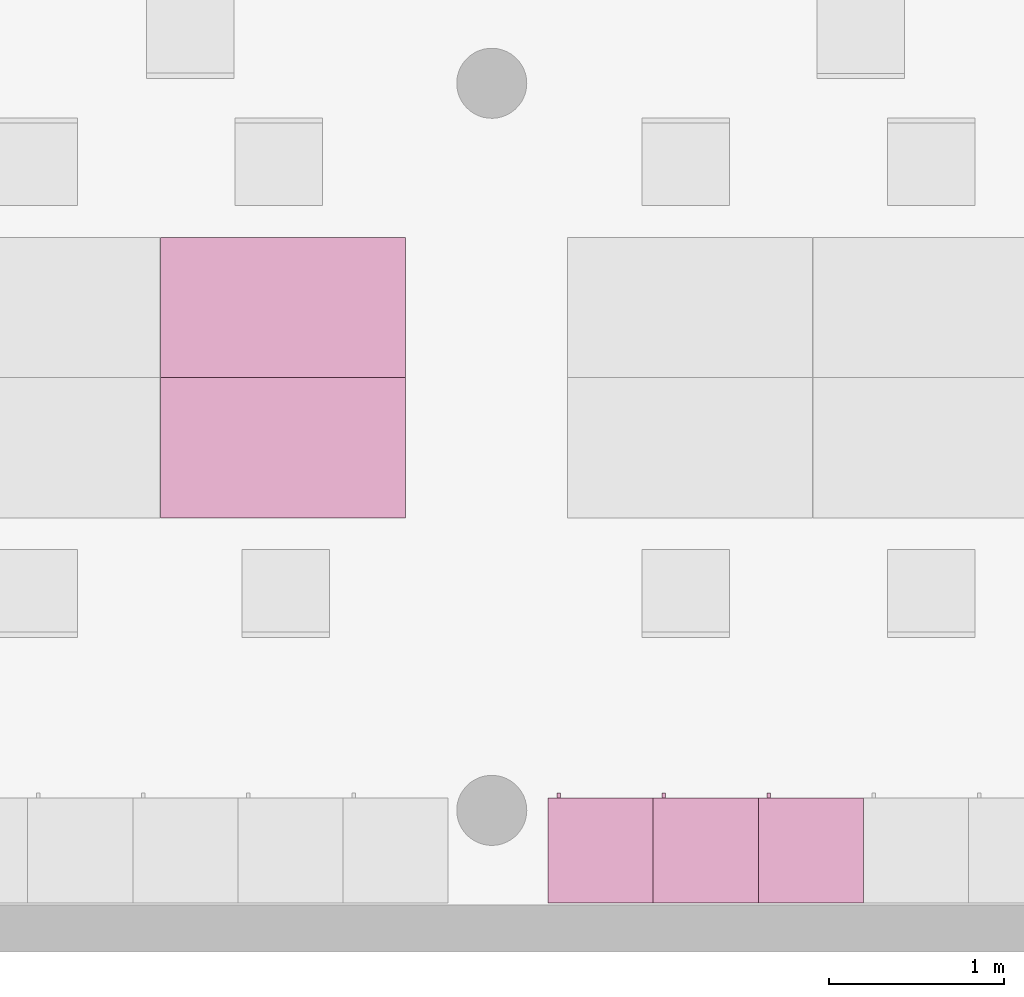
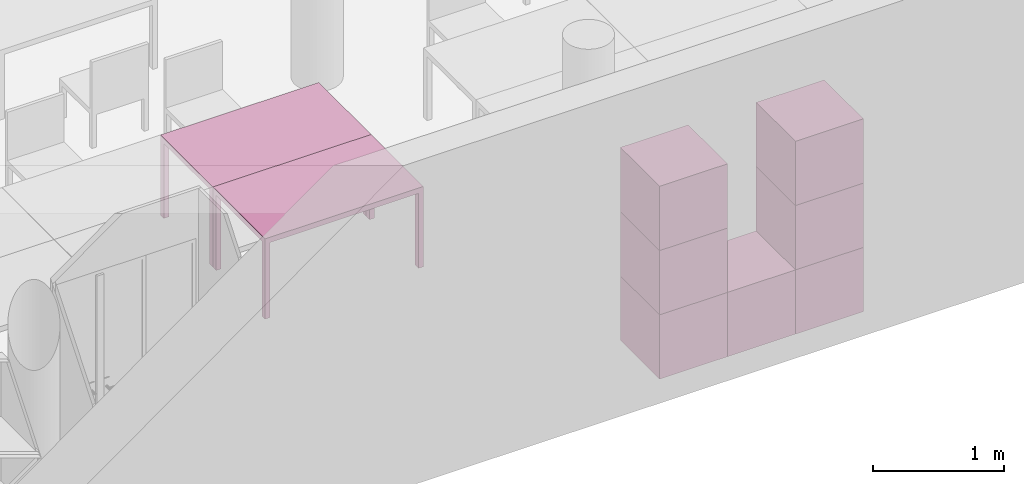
"""IFC4 building model written with IfcOpenShell, lengths in metres."""

from ifc_helpers import new_model, entity, si_unit, converted_unit, derived_unit, frame, origin, place, context, subcontext, project, spatial, faceted_brep, element, save


model = new_model("IFC4")

# Units and contexts
model_context = context("Model", 3, precision=1e-05, world=origin())
body_context = subcontext(model_context, "Body", "Model", "MODEL_VIEW")
ifc_project = project(units=[si_unit("LENGTHUNIT", "METRE"), si_unit("AREAUNIT", "SQUARE_METRE"), si_unit("VOLUMEUNIT", "CUBIC_METRE"), si_unit("MASSUNIT", "GRAM", prefix="KILO"), converted_unit("PLANEANGLEUNIT", "DEGREE", entity("IfcPlaneAngleMeasure", 0.0174532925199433), si_unit("PLANEANGLEUNIT", "RADIAN"), dimensions=[0, 0, 0, 0, 0, 0, 0]), derived_unit("THERMALTRANSMITTANCEUNIT", [(si_unit("POWERUNIT", "WATT"), 1), (si_unit("THERMODYNAMICTEMPERATUREUNIT", "KELVIN"), -1), (si_unit("LENGTHUNIT", "METRE"), -2)]), derived_unit("VOLUMETRICFLOWRATEUNIT", [(si_unit("LENGTHUNIT", "METRE"), 3), (converted_unit("TIMEUNIT", "hour", entity("IfcTimeMeasure", 3600.0), si_unit("TIMEUNIT", "SECOND"), dimensions=[0, 0, 1, 0, 0, 0, 0]), -1), (si_unit("LENGTHUNIT", "METRE"), -1)])], contexts=[model_context])

# Building, storeys
building_placement = place(None, origin())
building = spatial("IfcBuilding", under=ifc_project, at=building_placement, Name="HABITATGE PLURIFAMILIAR", CompositionType="ELEMENT")
storey_1_placement = place(building_placement, frame((0.0, 0.0, 15.28)))
storey_1 = spatial("IfcBuildingStorey", under=building, at=storey_1_placement, Name="PLANTA QUARTA", CompositionType="ELEMENT", Elevation=15.28)
storey_2_placement = place(storey_1_placement, frame((0.0, 0.0, 12.27)))
storey_2 = spatial("IfcBuildingStorey", under=storey_1, at=storey_2_placement, Name="NOU", CompositionType="PARTIAL")

# Furniture
furniture_1_placement = place(storey_2_placement, frame((408.843471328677, 15.3194598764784, -12.3699999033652)))
element("IfcFurniture", 1, at=furniture_1_placement, inside=storey_2, Name="Taula 140X80_P4", context=body_context, shape_type="Brep", body=[
    faceted_brep([(0.04375, 0.750069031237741, 0.0), (0.04375, 0.800069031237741, 0.0), (0.0, 0.800069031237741, 0.0), (0.0, 0.750069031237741, 0.0), (0.04375, 0.800069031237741, 0.7), (0.04375, 0.750069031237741, 0.7), (0.0, 0.750069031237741, 0.7), (0.0, 0.800069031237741, 0.7)], [[[0, 1, 2, 3]], [[4, 5, 6, 7]], [[1, 0, 5, 4]], [[2, 1, 4, 7]], [[3, 2, 7, 6]], [[0, 3, 6, 5]]], orient=[[False], [False], [False], [False], [False], [False]]),
    faceted_brep([(0.04375, 0.0, 0.0), (0.04375, 0.05, 0.0), (0.0, 0.05, 0.0), (0.0, 0.0, 0.0), (0.04375, 0.05, 0.7), (0.04375, 0.0, 0.7), (0.0, 0.0, 0.7), (0.0, 0.05, 0.7)], [[[0, 1, 2, 3]], [[4, 5, 6, 7]], [[1, 0, 5, 4]], [[2, 1, 4, 7]], [[3, 2, 7, 6]], [[0, 3, 6, 5]]], orient=[[False], [False], [False], [False], [False], [False]]),
    faceted_brep([(1.39732768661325, 0.0, 0.7), (1.39732768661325, 0.800069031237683, 0.7), (0.0, 0.800069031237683, 0.7), (0.0, 0.0, 0.7), (1.39732768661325, 0.800069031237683, 0.75), (1.39732768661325, 0.0, 0.75), (0.0, 0.0, 0.75), (0.0, 0.800069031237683, 0.75)], [[[0, 1, 2, 3]], [[4, 5, 6, 7]], [[1, 0, 5, 4]], [[2, 1, 4, 7]], [[3, 2, 7, 6]], [[0, 3, 6, 5]]], orient=[[False], [False], [False], [False], [False], [False]]),
    faceted_brep([(1.39732768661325, 0.750069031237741, 0.0), (1.39732768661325, 0.800069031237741, 0.0), (1.35357768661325, 0.800069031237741, 0.0), (1.35357768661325, 0.750069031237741, 0.0), (1.39732768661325, 0.800069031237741, 0.7), (1.39732768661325, 0.750069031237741, 0.7), (1.35357768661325, 0.750069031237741, 0.7), (1.35357768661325, 0.800069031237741, 0.7)], [[[0, 1, 2, 3]], [[4, 5, 6, 7]], [[1, 0, 5, 4]], [[2, 1, 4, 7]], [[3, 2, 7, 6]], [[0, 3, 6, 5]]], orient=[[False], [False], [False], [False], [False], [False]]),
    faceted_brep([(1.39732768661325, 0.0, 0.0), (1.39732768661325, 0.05, 0.0), (1.35357768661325, 0.05, 0.0), (1.35357768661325, 0.0, 0.0), (1.39732768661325, 0.05, 0.7), (1.39732768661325, 0.0, 0.7), (1.35357768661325, 0.0, 0.7), (1.35357768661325, 0.05, 0.7)], [[[0, 1, 2, 3]], [[4, 5, 6, 7]], [[1, 0, 5, 4]], [[2, 1, 4, 7]], [[3, 2, 7, 6]], [[0, 3, 6, 5]]], orient=[[False], [False], [False], [False], [False], [False]]),
])
furniture_2_placement = place(storey_2_placement, frame((408.843471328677, 16.119528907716, -12.3699999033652)))
element("IfcFurniture", 2, at=furniture_2_placement, inside=storey_2, Name="Taula 140X80_P4", context=body_context, shape_type="Brep", body=[
    faceted_brep([(0.04375, 0.05, 0.0), (0.0, 0.05, 0.0), (0.0, 0.0, 0.0), (0.04375, 0.0, 0.0), (0.04375, 0.0, 0.7), (0.0, 0.0, 0.7), (0.0, 0.05, 0.7), (0.04375, 0.05, 0.7)], [[[0, 1, 2, 3]], [[4, 5, 6, 7]], [[3, 4, 7, 0]], [[2, 5, 4, 3]], [[1, 6, 5, 2]], [[0, 7, 6, 1]]], orient=[[False], [False], [False], [False], [False], [False]]),
    faceted_brep([(0.04375, 0.800069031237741, 0.0), (0.0, 0.800069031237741, 0.0), (0.0, 0.750069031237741, 0.0), (0.04375, 0.750069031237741, 0.0), (0.04375, 0.750069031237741, 0.7), (0.0, 0.750069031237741, 0.7), (0.0, 0.800069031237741, 0.7), (0.04375, 0.800069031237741, 0.7)], [[[0, 1, 2, 3]], [[4, 5, 6, 7]], [[3, 4, 7, 0]], [[2, 5, 4, 3]], [[1, 6, 5, 2]], [[0, 7, 6, 1]]], orient=[[False], [False], [False], [False], [False], [False]]),
    faceted_brep([(1.39732768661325, 0.800069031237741, 0.7), (0.0, 0.800069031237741, 0.7), (0.0, 0.0, 0.7), (1.39732768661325, 0.0, 0.7), (1.39732768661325, 0.0, 0.75), (0.0, 0.0, 0.75), (0.0, 0.800069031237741, 0.75), (1.39732768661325, 0.800069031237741, 0.75)], [[[0, 1, 2, 3]], [[4, 5, 6, 7]], [[3, 4, 7, 0]], [[2, 5, 4, 3]], [[1, 6, 5, 2]], [[0, 7, 6, 1]]], orient=[[False], [False], [False], [False], [False], [False]]),
    faceted_brep([(1.39732768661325, 0.05, 0.0), (1.35357768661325, 0.05, 0.0), (1.35357768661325, 0.0, 0.0), (1.39732768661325, 0.0, 0.0), (1.39732768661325, 0.0, 0.7), (1.35357768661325, 0.0, 0.7), (1.35357768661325, 0.05, 0.7), (1.39732768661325, 0.05, 0.7)], [[[0, 1, 2, 3]], [[4, 5, 6, 7]], [[3, 4, 7, 0]], [[2, 5, 4, 3]], [[1, 6, 5, 2]], [[0, 7, 6, 1]]], orient=[[False], [False], [False], [False], [False], [False]]),
    faceted_brep([(1.39732768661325, 0.800069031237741, 0.0), (1.35357768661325, 0.800069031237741, 0.0), (1.35357768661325, 0.750069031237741, 0.0), (1.39732768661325, 0.750069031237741, 0.0), (1.39732768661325, 0.750069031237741, 0.7), (1.35357768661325, 0.750069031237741, 0.7), (1.35357768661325, 0.800069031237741, 0.7), (1.39732768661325, 0.800069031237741, 0.7)], [[[0, 1, 2, 3]], [[4, 5, 6, 7]], [[3, 4, 7, 0]], [[2, 5, 4, 3]], [[1, 6, 5, 2]], [[0, 7, 6, 1]]], orient=[[False], [False], [False], [False], [False], [False]]),
])
furniture_3_placement = place(storey_2_placement, frame((412.25527037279, 13.1194598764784, -11.77)))
element("IfcFurniture", 3, at=furniture_3_placement, inside=storey_2, Name="Armai 60x60x60_P4", context=body_context, shape_type="Brep", body=[
    faceted_brep([(0.0, 0.6, 0.02), (0.0, 0.6, 0.0), (0.6, 0.6, 0.0), (0.6, 0.6, 0.02), (0.6, 0.0, 0.0), (0.6, 0.0, 0.02), (0.0, 0.0, 0.0), (0.0, 0.0, 0.02)], [[[0, 1, 2, 3]], [[3, 2, 4, 5]], [[5, 4, 6, 7]], [[7, 6, 1, 0]], [[0, 3, 5, 7]], [[1, 6, 4, 2]]], orient=[[False], [False], [False], [False], [False], [False]]),
    faceted_brep([(0.580000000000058, 0.0, 0.58), (0.580000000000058, 0.0200000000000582, 0.58), (0.580000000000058, 0.0200000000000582, 0.02), (0.580000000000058, 0.0, 0.02), (0.0200000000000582, 0.0200000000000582, 0.02), (0.0200000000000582, 0.0, 0.02), (0.0200000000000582, 0.0200000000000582, 0.58), (0.0200000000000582, 0.0, 0.58)], [[[0, 1, 2, 3]], [[3, 2, 4, 5]], [[5, 4, 6, 7]], [[7, 6, 1, 0]], [[0, 3, 5, 7]], [[1, 6, 4, 2]]], orient=[[False], [False], [False], [False], [False], [False]]),
    faceted_brep([(0.0200000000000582, 0.6, 0.58), (0.0, 0.6, 0.58), (0.0, 0.6, 0.02), (0.0200000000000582, 0.6, 0.02), (0.0, 0.0, 0.02), (0.0200000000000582, 0.0, 0.02), (0.0, 0.0, 0.58), (0.0200000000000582, 0.0, 0.58)], [[[0, 1, 2, 3]], [[3, 2, 4, 5]], [[5, 4, 6, 7]], [[7, 6, 1, 0]], [[0, 3, 5, 7]], [[1, 6, 4, 2]]], orient=[[False], [False], [False], [False], [False], [False]]),
    faceted_brep([(0.0, 0.58, 0.58), (0.0, 0.6, 0.58), (0.0, 0.6, 0.02), (0.0, 0.58, 0.02), (0.02, 0.6, 0.02), (0.02, 0.58, 0.02), (0.02, 0.6, 0.58), (0.02, 0.58, 0.58)], [[[0, 1, 2, 3]], [[3, 2, 4, 5]], [[5, 4, 6, 7]], [[7, 6, 1, 0]], [[0, 3, 5, 7]], [[1, 6, 4, 2]]], orient=[[False], [False], [False], [False], [False], [False]]),
    faceted_brep([(0.6, 0.6, 0.58), (0.58, 0.6, 0.58), (0.58, 0.6, 0.02), (0.6, 0.6, 0.02), (0.58, 0.0, 0.02), (0.6, 0.0, 0.02), (0.58, 0.0, 0.58), (0.6, 0.0, 0.58)], [[[0, 1, 2, 3]], [[3, 2, 4, 5]], [[5, 4, 6, 7]], [[7, 6, 1, 0]], [[0, 3, 5, 7]], [[1, 6, 4, 2]]], orient=[[False], [False], [False], [False], [False], [False]]),
    faceted_brep([(0.0, 0.600000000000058, 0.6), (0.0, 0.600000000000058, 0.58), (0.600000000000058, 0.600000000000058, 0.58), (0.600000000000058, 0.600000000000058, 0.6), (0.600000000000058, 0.0, 0.58), (0.600000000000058, 0.0, 0.6), (0.0, 0.0, 0.58), (0.0, 0.0, 0.6)], [[[0, 1, 2, 3]], [[3, 2, 4, 5]], [[5, 4, 6, 7]], [[7, 6, 1, 0]], [[0, 3, 5, 7]], [[1, 6, 4, 2]]], orient=[[False], [False], [False], [False], [False], [False]]),
    faceted_brep([(0.580000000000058, 0.580000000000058, 0.58), (0.580000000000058, 0.600000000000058, 0.58), (0.580000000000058, 0.600000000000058, 0.02), (0.580000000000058, 0.580000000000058, 0.02), (0.02, 0.600000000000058, 0.02), (0.02, 0.580000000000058, 0.02), (0.02, 0.600000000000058, 0.58), (0.02, 0.580000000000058, 0.58)], [[[0, 1, 2, 3]], [[3, 2, 4, 5]], [[5, 4, 6, 7]], [[7, 6, 1, 0]], [[0, 3, 5, 7]], [[1, 6, 4, 2]]], orient=[[False], [False], [False], [False], [False], [False]]),
    faceted_brep([(0.0700000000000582, 0.600000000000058, 0.358064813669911), (0.0700000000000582, 0.630000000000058, 0.358064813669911), (0.0700000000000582, 0.630000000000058, 0.258064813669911), (0.0700000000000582, 0.600000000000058, 0.258064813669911), (0.0500000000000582, 0.630000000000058, 0.258064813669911), (0.0500000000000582, 0.600000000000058, 0.258064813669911), (0.0500000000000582, 0.630000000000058, 0.358064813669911), (0.0500000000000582, 0.600000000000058, 0.358064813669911)], [[[0, 1, 2, 3]], [[3, 2, 4, 5]], [[5, 4, 6, 7]], [[7, 6, 1, 0]], [[0, 3, 5, 7]], [[1, 6, 4, 2]]], orient=[[False], [False], [False], [False], [False], [False]]),
])
furniture_4_placement = place(storey_2_placement, frame((412.25527037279, 13.1194598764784, -11.17)))
element("IfcFurniture", 4, at=furniture_4_placement, inside=storey_2, Name="Armai 60x60x60_P4", context=body_context, shape_type="Brep", body=[
    faceted_brep([(0.0, 0.6, 0.02), (0.0, 0.6, 0.0), (0.6, 0.6, 0.0), (0.6, 0.6, 0.02), (0.6, 0.0, 0.0), (0.6, 0.0, 0.02), (0.0, 0.0, 0.0), (0.0, 0.0, 0.02)], [[[0, 1, 2, 3]], [[3, 2, 4, 5]], [[5, 4, 6, 7]], [[7, 6, 1, 0]], [[0, 3, 5, 7]], [[1, 6, 4, 2]]], orient=[[False], [False], [False], [False], [False], [False]]),
    faceted_brep([(0.580000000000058, 0.0, 0.58), (0.580000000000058, 0.0200000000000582, 0.58), (0.580000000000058, 0.0200000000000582, 0.02), (0.580000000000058, 0.0, 0.02), (0.0200000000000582, 0.0200000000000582, 0.02), (0.0200000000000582, 0.0, 0.02), (0.0200000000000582, 0.0200000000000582, 0.58), (0.0200000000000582, 0.0, 0.58)], [[[0, 1, 2, 3]], [[3, 2, 4, 5]], [[5, 4, 6, 7]], [[7, 6, 1, 0]], [[0, 3, 5, 7]], [[1, 6, 4, 2]]], orient=[[False], [False], [False], [False], [False], [False]]),
    faceted_brep([(0.0200000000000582, 0.6, 0.58), (0.0, 0.6, 0.58), (0.0, 0.6, 0.02), (0.0200000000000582, 0.6, 0.02), (0.0, 0.0, 0.02), (0.0200000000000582, 0.0, 0.02), (0.0, 0.0, 0.58), (0.0200000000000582, 0.0, 0.58)], [[[0, 1, 2, 3]], [[3, 2, 4, 5]], [[5, 4, 6, 7]], [[7, 6, 1, 0]], [[0, 3, 5, 7]], [[1, 6, 4, 2]]], orient=[[False], [False], [False], [False], [False], [False]]),
    faceted_brep([(0.0, 0.58, 0.58), (0.0, 0.6, 0.58), (0.0, 0.6, 0.02), (0.0, 0.58, 0.02), (0.02, 0.6, 0.02), (0.02, 0.58, 0.02), (0.02, 0.6, 0.58), (0.02, 0.58, 0.58)], [[[0, 1, 2, 3]], [[3, 2, 4, 5]], [[5, 4, 6, 7]], [[7, 6, 1, 0]], [[0, 3, 5, 7]], [[1, 6, 4, 2]]], orient=[[False], [False], [False], [False], [False], [False]]),
    faceted_brep([(0.6, 0.6, 0.58), (0.58, 0.6, 0.58), (0.58, 0.6, 0.02), (0.6, 0.6, 0.02), (0.58, 0.0, 0.02), (0.6, 0.0, 0.02), (0.58, 0.0, 0.58), (0.6, 0.0, 0.58)], [[[0, 1, 2, 3]], [[3, 2, 4, 5]], [[5, 4, 6, 7]], [[7, 6, 1, 0]], [[0, 3, 5, 7]], [[1, 6, 4, 2]]], orient=[[False], [False], [False], [False], [False], [False]]),
    faceted_brep([(0.0, 0.600000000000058, 0.6), (0.0, 0.600000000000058, 0.58), (0.600000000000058, 0.600000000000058, 0.58), (0.600000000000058, 0.600000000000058, 0.6), (0.600000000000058, 0.0, 0.58), (0.600000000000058, 0.0, 0.6), (0.0, 0.0, 0.58), (0.0, 0.0, 0.6)], [[[0, 1, 2, 3]], [[3, 2, 4, 5]], [[5, 4, 6, 7]], [[7, 6, 1, 0]], [[0, 3, 5, 7]], [[1, 6, 4, 2]]], orient=[[False], [False], [False], [False], [False], [False]]),
    faceted_brep([(0.580000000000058, 0.580000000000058, 0.58), (0.580000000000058, 0.600000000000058, 0.58), (0.580000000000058, 0.600000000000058, 0.02), (0.580000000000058, 0.580000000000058, 0.02), (0.02, 0.600000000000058, 0.02), (0.02, 0.580000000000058, 0.02), (0.02, 0.600000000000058, 0.58), (0.02, 0.580000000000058, 0.58)], [[[0, 1, 2, 3]], [[3, 2, 4, 5]], [[5, 4, 6, 7]], [[7, 6, 1, 0]], [[0, 3, 5, 7]], [[1, 6, 4, 2]]], orient=[[False], [False], [False], [False], [False], [False]]),
    faceted_brep([(0.0700000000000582, 0.600000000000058, 0.358064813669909), (0.0700000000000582, 0.630000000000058, 0.358064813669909), (0.0700000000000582, 0.630000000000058, 0.258064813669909), (0.0700000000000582, 0.600000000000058, 0.258064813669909), (0.0500000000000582, 0.630000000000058, 0.258064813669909), (0.0500000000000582, 0.600000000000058, 0.258064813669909), (0.0500000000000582, 0.630000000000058, 0.358064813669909), (0.0500000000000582, 0.600000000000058, 0.358064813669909)], [[[0, 1, 2, 3]], [[3, 2, 4, 5]], [[5, 4, 6, 7]], [[7, 6, 1, 0]], [[0, 3, 5, 7]], [[1, 6, 4, 2]]], orient=[[False], [False], [False], [False], [False], [False]]),
])
furniture_5_placement = place(storey_2_placement, frame((412.25527037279, 13.1194598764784, -12.37)))
element("IfcFurniture", 5, at=furniture_5_placement, inside=storey_2, Name="Armai 60x60x60_P4", context=body_context, shape_type="Brep", body=[
    faceted_brep([(0.0, 0.6, 0.02), (0.0, 0.6, 0.0), (0.6, 0.6, 0.0), (0.6, 0.6, 0.02), (0.6, 0.0, 0.0), (0.6, 0.0, 0.02), (0.0, 0.0, 0.0), (0.0, 0.0, 0.02)], [[[0, 1, 2, 3]], [[3, 2, 4, 5]], [[5, 4, 6, 7]], [[7, 6, 1, 0]], [[0, 3, 5, 7]], [[1, 6, 4, 2]]], orient=[[False], [False], [False], [False], [False], [False]]),
    faceted_brep([(0.580000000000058, 0.0, 0.58), (0.580000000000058, 0.0200000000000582, 0.58), (0.580000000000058, 0.0200000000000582, 0.02), (0.580000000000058, 0.0, 0.02), (0.0200000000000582, 0.0200000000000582, 0.02), (0.0200000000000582, 0.0, 0.02), (0.0200000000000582, 0.0200000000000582, 0.58), (0.0200000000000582, 0.0, 0.58)], [[[0, 1, 2, 3]], [[3, 2, 4, 5]], [[5, 4, 6, 7]], [[7, 6, 1, 0]], [[0, 3, 5, 7]], [[1, 6, 4, 2]]], orient=[[False], [False], [False], [False], [False], [False]]),
    faceted_brep([(0.0200000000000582, 0.6, 0.58), (0.0, 0.6, 0.58), (0.0, 0.6, 0.02), (0.0200000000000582, 0.6, 0.02), (0.0, 0.0, 0.02), (0.0200000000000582, 0.0, 0.02), (0.0, 0.0, 0.58), (0.0200000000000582, 0.0, 0.58)], [[[0, 1, 2, 3]], [[3, 2, 4, 5]], [[5, 4, 6, 7]], [[7, 6, 1, 0]], [[0, 3, 5, 7]], [[1, 6, 4, 2]]], orient=[[False], [False], [False], [False], [False], [False]]),
    faceted_brep([(0.0, 0.58, 0.58), (0.0, 0.6, 0.58), (0.0, 0.6, 0.02), (0.0, 0.58, 0.02), (0.02, 0.6, 0.02), (0.02, 0.58, 0.02), (0.02, 0.6, 0.58), (0.02, 0.58, 0.58)], [[[0, 1, 2, 3]], [[3, 2, 4, 5]], [[5, 4, 6, 7]], [[7, 6, 1, 0]], [[0, 3, 5, 7]], [[1, 6, 4, 2]]], orient=[[False], [False], [False], [False], [False], [False]]),
    faceted_brep([(0.6, 0.6, 0.58), (0.58, 0.6, 0.58), (0.58, 0.6, 0.02), (0.6, 0.6, 0.02), (0.58, 0.0, 0.02), (0.6, 0.0, 0.02), (0.58, 0.0, 0.58), (0.6, 0.0, 0.58)], [[[0, 1, 2, 3]], [[3, 2, 4, 5]], [[5, 4, 6, 7]], [[7, 6, 1, 0]], [[0, 3, 5, 7]], [[1, 6, 4, 2]]], orient=[[False], [False], [False], [False], [False], [False]]),
    faceted_brep([(0.0, 0.600000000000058, 0.6), (0.0, 0.600000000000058, 0.58), (0.600000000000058, 0.600000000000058, 0.58), (0.600000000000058, 0.600000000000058, 0.6), (0.600000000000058, 0.0, 0.58), (0.600000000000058, 0.0, 0.6), (0.0, 0.0, 0.58), (0.0, 0.0, 0.6)], [[[0, 1, 2, 3]], [[3, 2, 4, 5]], [[5, 4, 6, 7]], [[7, 6, 1, 0]], [[0, 3, 5, 7]], [[1, 6, 4, 2]]], orient=[[False], [False], [False], [False], [False], [False]]),
    faceted_brep([(0.580000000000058, 0.580000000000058, 0.58), (0.580000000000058, 0.600000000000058, 0.58), (0.580000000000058, 0.600000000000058, 0.02), (0.580000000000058, 0.580000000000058, 0.02), (0.02, 0.600000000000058, 0.02), (0.02, 0.580000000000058, 0.02), (0.02, 0.600000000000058, 0.58), (0.02, 0.580000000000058, 0.58)], [[[0, 1, 2, 3]], [[3, 2, 4, 5]], [[5, 4, 6, 7]], [[7, 6, 1, 0]], [[0, 3, 5, 7]], [[1, 6, 4, 2]]], orient=[[False], [False], [False], [False], [False], [False]]),
    faceted_brep([(0.0700000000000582, 0.600000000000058, 0.358064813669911), (0.0700000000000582, 0.630000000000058, 0.358064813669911), (0.0700000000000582, 0.630000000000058, 0.258064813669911), (0.0700000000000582, 0.600000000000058, 0.258064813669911), (0.0500000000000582, 0.630000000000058, 0.258064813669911), (0.0500000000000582, 0.600000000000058, 0.258064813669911), (0.0500000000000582, 0.630000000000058, 0.358064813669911), (0.0500000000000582, 0.600000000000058, 0.358064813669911)], [[[0, 1, 2, 3]], [[3, 2, 4, 5]], [[5, 4, 6, 7]], [[7, 6, 1, 0]], [[0, 3, 5, 7]], [[1, 6, 4, 2]]], orient=[[False], [False], [False], [False], [False], [False]]),
])
furniture_6_placement = place(storey_2_placement, frame((411.65527037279, 13.1194598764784, -12.37)))
element("IfcFurniture", 6, at=furniture_6_placement, inside=storey_2, Name="Armai 60x60x60_P4", context=body_context, shape_type="Brep", body=[
    faceted_brep([(0.0, 0.6, 0.02), (0.0, 0.6, 0.0), (0.6, 0.6, 0.0), (0.6, 0.6, 0.02), (0.6, 0.0, 0.0), (0.6, 0.0, 0.02), (0.0, 0.0, 0.0), (0.0, 0.0, 0.02)], [[[0, 1, 2, 3]], [[3, 2, 4, 5]], [[5, 4, 6, 7]], [[7, 6, 1, 0]], [[0, 3, 5, 7]], [[1, 6, 4, 2]]], orient=[[False], [False], [False], [False], [False], [False]]),
    faceted_brep([(0.580000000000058, 0.0, 0.58), (0.580000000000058, 0.0200000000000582, 0.58), (0.580000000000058, 0.0200000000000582, 0.02), (0.580000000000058, 0.0, 0.02), (0.0200000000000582, 0.0200000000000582, 0.02), (0.0200000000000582, 0.0, 0.02), (0.0200000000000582, 0.0200000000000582, 0.58), (0.0200000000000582, 0.0, 0.58)], [[[0, 1, 2, 3]], [[3, 2, 4, 5]], [[5, 4, 6, 7]], [[7, 6, 1, 0]], [[0, 3, 5, 7]], [[1, 6, 4, 2]]], orient=[[False], [False], [False], [False], [False], [False]]),
    faceted_brep([(0.0200000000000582, 0.6, 0.58), (0.0, 0.6, 0.58), (0.0, 0.6, 0.02), (0.0200000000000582, 0.6, 0.02), (0.0, 0.0, 0.02), (0.0200000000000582, 0.0, 0.02), (0.0, 0.0, 0.58), (0.0200000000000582, 0.0, 0.58)], [[[0, 1, 2, 3]], [[3, 2, 4, 5]], [[5, 4, 6, 7]], [[7, 6, 1, 0]], [[0, 3, 5, 7]], [[1, 6, 4, 2]]], orient=[[False], [False], [False], [False], [False], [False]]),
    faceted_brep([(0.0, 0.58, 0.58), (0.0, 0.6, 0.58), (0.0, 0.6, 0.02), (0.0, 0.58, 0.02), (0.02, 0.6, 0.02), (0.02, 0.58, 0.02), (0.02, 0.6, 0.58), (0.02, 0.58, 0.58)], [[[0, 1, 2, 3]], [[3, 2, 4, 5]], [[5, 4, 6, 7]], [[7, 6, 1, 0]], [[0, 3, 5, 7]], [[1, 6, 4, 2]]], orient=[[False], [False], [False], [False], [False], [False]]),
    faceted_brep([(0.6, 0.6, 0.58), (0.58, 0.6, 0.58), (0.58, 0.6, 0.02), (0.6, 0.6, 0.02), (0.58, 0.0, 0.02), (0.6, 0.0, 0.02), (0.58, 0.0, 0.58), (0.6, 0.0, 0.58)], [[[0, 1, 2, 3]], [[3, 2, 4, 5]], [[5, 4, 6, 7]], [[7, 6, 1, 0]], [[0, 3, 5, 7]], [[1, 6, 4, 2]]], orient=[[False], [False], [False], [False], [False], [False]]),
    faceted_brep([(0.0, 0.600000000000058, 0.6), (0.0, 0.600000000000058, 0.58), (0.600000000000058, 0.600000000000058, 0.58), (0.600000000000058, 0.600000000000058, 0.6), (0.600000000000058, 0.0, 0.58), (0.600000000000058, 0.0, 0.6), (0.0, 0.0, 0.58), (0.0, 0.0, 0.6)], [[[0, 1, 2, 3]], [[3, 2, 4, 5]], [[5, 4, 6, 7]], [[7, 6, 1, 0]], [[0, 3, 5, 7]], [[1, 6, 4, 2]]], orient=[[False], [False], [False], [False], [False], [False]]),
    faceted_brep([(0.580000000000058, 0.580000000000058, 0.58), (0.580000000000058, 0.600000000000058, 0.58), (0.580000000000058, 0.600000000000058, 0.02), (0.580000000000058, 0.580000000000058, 0.02), (0.02, 0.600000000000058, 0.02), (0.02, 0.580000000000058, 0.02), (0.02, 0.600000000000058, 0.58), (0.02, 0.580000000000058, 0.58)], [[[0, 1, 2, 3]], [[3, 2, 4, 5]], [[5, 4, 6, 7]], [[7, 6, 1, 0]], [[0, 3, 5, 7]], [[1, 6, 4, 2]]], orient=[[False], [False], [False], [False], [False], [False]]),
    faceted_brep([(0.0700000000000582, 0.600000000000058, 0.358064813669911), (0.0700000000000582, 0.630000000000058, 0.358064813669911), (0.0700000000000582, 0.630000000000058, 0.258064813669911), (0.0700000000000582, 0.600000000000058, 0.258064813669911), (0.0500000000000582, 0.630000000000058, 0.258064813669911), (0.0500000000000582, 0.600000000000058, 0.258064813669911), (0.0500000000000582, 0.630000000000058, 0.358064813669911), (0.0500000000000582, 0.600000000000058, 0.358064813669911)], [[[0, 1, 2, 3]], [[3, 2, 4, 5]], [[5, 4, 6, 7]], [[7, 6, 1, 0]], [[0, 3, 5, 7]], [[1, 6, 4, 2]]], orient=[[False], [False], [False], [False], [False], [False]]),
])
furniture_7_placement = place(storey_2_placement, frame((411.05527037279, 13.1194598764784, -11.77)))
element("IfcFurniture", 7, at=furniture_7_placement, inside=storey_2, Name="Armai 60x60x60_P4", context=body_context, shape_type="Brep", body=[
    faceted_brep([(0.0, 0.6, 0.02), (0.0, 0.6, 0.0), (0.6, 0.6, 0.0), (0.6, 0.6, 0.02), (0.6, 0.0, 0.0), (0.6, 0.0, 0.02), (0.0, 0.0, 0.0), (0.0, 0.0, 0.02)], [[[0, 1, 2, 3]], [[3, 2, 4, 5]], [[5, 4, 6, 7]], [[7, 6, 1, 0]], [[0, 3, 5, 7]], [[1, 6, 4, 2]]], orient=[[False], [False], [False], [False], [False], [False]]),
    faceted_brep([(0.580000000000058, 0.0, 0.58), (0.580000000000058, 0.0200000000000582, 0.58), (0.580000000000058, 0.0200000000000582, 0.02), (0.580000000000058, 0.0, 0.02), (0.0200000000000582, 0.0200000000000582, 0.02), (0.0200000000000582, 0.0, 0.02), (0.0200000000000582, 0.0200000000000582, 0.58), (0.0200000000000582, 0.0, 0.58)], [[[0, 1, 2, 3]], [[3, 2, 4, 5]], [[5, 4, 6, 7]], [[7, 6, 1, 0]], [[0, 3, 5, 7]], [[1, 6, 4, 2]]], orient=[[False], [False], [False], [False], [False], [False]]),
    faceted_brep([(0.0200000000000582, 0.6, 0.58), (0.0, 0.6, 0.58), (0.0, 0.6, 0.02), (0.0200000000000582, 0.6, 0.02), (0.0, 0.0, 0.02), (0.0200000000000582, 0.0, 0.02), (0.0, 0.0, 0.58), (0.0200000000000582, 0.0, 0.58)], [[[0, 1, 2, 3]], [[3, 2, 4, 5]], [[5, 4, 6, 7]], [[7, 6, 1, 0]], [[0, 3, 5, 7]], [[1, 6, 4, 2]]], orient=[[False], [False], [False], [False], [False], [False]]),
    faceted_brep([(0.0, 0.58, 0.58), (0.0, 0.6, 0.58), (0.0, 0.6, 0.02), (0.0, 0.58, 0.02), (0.02, 0.6, 0.02), (0.02, 0.58, 0.02), (0.02, 0.6, 0.58), (0.02, 0.58, 0.58)], [[[0, 1, 2, 3]], [[3, 2, 4, 5]], [[5, 4, 6, 7]], [[7, 6, 1, 0]], [[0, 3, 5, 7]], [[1, 6, 4, 2]]], orient=[[False], [False], [False], [False], [False], [False]]),
    faceted_brep([(0.6, 0.6, 0.58), (0.58, 0.6, 0.58), (0.58, 0.6, 0.02), (0.6, 0.6, 0.02), (0.58, 0.0, 0.02), (0.6, 0.0, 0.02), (0.58, 0.0, 0.58), (0.6, 0.0, 0.58)], [[[0, 1, 2, 3]], [[3, 2, 4, 5]], [[5, 4, 6, 7]], [[7, 6, 1, 0]], [[0, 3, 5, 7]], [[1, 6, 4, 2]]], orient=[[False], [False], [False], [False], [False], [False]]),
    faceted_brep([(0.0, 0.600000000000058, 0.6), (0.0, 0.600000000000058, 0.58), (0.600000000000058, 0.600000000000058, 0.58), (0.600000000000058, 0.600000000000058, 0.6), (0.600000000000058, 0.0, 0.58), (0.600000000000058, 0.0, 0.6), (0.0, 0.0, 0.58), (0.0, 0.0, 0.6)], [[[0, 1, 2, 3]], [[3, 2, 4, 5]], [[5, 4, 6, 7]], [[7, 6, 1, 0]], [[0, 3, 5, 7]], [[1, 6, 4, 2]]], orient=[[False], [False], [False], [False], [False], [False]]),
    faceted_brep([(0.580000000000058, 0.580000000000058, 0.58), (0.580000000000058, 0.600000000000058, 0.58), (0.580000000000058, 0.600000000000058, 0.02), (0.580000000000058, 0.580000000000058, 0.02), (0.02, 0.600000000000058, 0.02), (0.02, 0.580000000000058, 0.02), (0.02, 0.600000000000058, 0.58), (0.02, 0.580000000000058, 0.58)], [[[0, 1, 2, 3]], [[3, 2, 4, 5]], [[5, 4, 6, 7]], [[7, 6, 1, 0]], [[0, 3, 5, 7]], [[1, 6, 4, 2]]], orient=[[False], [False], [False], [False], [False], [False]]),
    faceted_brep([(0.0700000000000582, 0.600000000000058, 0.358064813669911), (0.0700000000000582, 0.630000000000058, 0.358064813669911), (0.0700000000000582, 0.630000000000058, 0.258064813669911), (0.0700000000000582, 0.600000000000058, 0.258064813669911), (0.0500000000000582, 0.630000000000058, 0.258064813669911), (0.0500000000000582, 0.600000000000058, 0.258064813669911), (0.0500000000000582, 0.630000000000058, 0.358064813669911), (0.0500000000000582, 0.600000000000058, 0.358064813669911)], [[[0, 1, 2, 3]], [[3, 2, 4, 5]], [[5, 4, 6, 7]], [[7, 6, 1, 0]], [[0, 3, 5, 7]], [[1, 6, 4, 2]]], orient=[[False], [False], [False], [False], [False], [False]]),
])
furniture_8_placement = place(storey_2_placement, frame((411.05527037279, 13.1194598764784, -11.17)))
element("IfcFurniture", 8, at=furniture_8_placement, inside=storey_2, Name="Armai 60x60x60_P4", context=body_context, shape_type="Brep", body=[
    faceted_brep([(0.0, 0.6, 0.02), (0.0, 0.6, 0.0), (0.6, 0.6, 0.0), (0.6, 0.6, 0.02), (0.6, 0.0, 0.0), (0.6, 0.0, 0.02), (0.0, 0.0, 0.0), (0.0, 0.0, 0.02)], [[[0, 1, 2, 3]], [[3, 2, 4, 5]], [[5, 4, 6, 7]], [[7, 6, 1, 0]], [[0, 3, 5, 7]], [[1, 6, 4, 2]]], orient=[[False], [False], [False], [False], [False], [False]]),
    faceted_brep([(0.580000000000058, 0.0, 0.58), (0.580000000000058, 0.0200000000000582, 0.58), (0.580000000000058, 0.0200000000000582, 0.02), (0.580000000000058, 0.0, 0.02), (0.0200000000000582, 0.0200000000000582, 0.02), (0.0200000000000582, 0.0, 0.02), (0.0200000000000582, 0.0200000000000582, 0.58), (0.0200000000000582, 0.0, 0.58)], [[[0, 1, 2, 3]], [[3, 2, 4, 5]], [[5, 4, 6, 7]], [[7, 6, 1, 0]], [[0, 3, 5, 7]], [[1, 6, 4, 2]]], orient=[[False], [False], [False], [False], [False], [False]]),
    faceted_brep([(0.0200000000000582, 0.6, 0.58), (0.0, 0.6, 0.58), (0.0, 0.6, 0.02), (0.0200000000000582, 0.6, 0.02), (0.0, 0.0, 0.02), (0.0200000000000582, 0.0, 0.02), (0.0, 0.0, 0.58), (0.0200000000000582, 0.0, 0.58)], [[[0, 1, 2, 3]], [[3, 2, 4, 5]], [[5, 4, 6, 7]], [[7, 6, 1, 0]], [[0, 3, 5, 7]], [[1, 6, 4, 2]]], orient=[[False], [False], [False], [False], [False], [False]]),
    faceted_brep([(0.0, 0.58, 0.58), (0.0, 0.6, 0.58), (0.0, 0.6, 0.02), (0.0, 0.58, 0.02), (0.02, 0.6, 0.02), (0.02, 0.58, 0.02), (0.02, 0.6, 0.58), (0.02, 0.58, 0.58)], [[[0, 1, 2, 3]], [[3, 2, 4, 5]], [[5, 4, 6, 7]], [[7, 6, 1, 0]], [[0, 3, 5, 7]], [[1, 6, 4, 2]]], orient=[[False], [False], [False], [False], [False], [False]]),
    faceted_brep([(0.6, 0.6, 0.58), (0.58, 0.6, 0.58), (0.58, 0.6, 0.02), (0.6, 0.6, 0.02), (0.58, 0.0, 0.02), (0.6, 0.0, 0.02), (0.58, 0.0, 0.58), (0.6, 0.0, 0.58)], [[[0, 1, 2, 3]], [[3, 2, 4, 5]], [[5, 4, 6, 7]], [[7, 6, 1, 0]], [[0, 3, 5, 7]], [[1, 6, 4, 2]]], orient=[[False], [False], [False], [False], [False], [False]]),
    faceted_brep([(0.0, 0.600000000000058, 0.6), (0.0, 0.600000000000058, 0.58), (0.600000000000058, 0.600000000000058, 0.58), (0.600000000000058, 0.600000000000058, 0.6), (0.600000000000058, 0.0, 0.58), (0.600000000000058, 0.0, 0.6), (0.0, 0.0, 0.58), (0.0, 0.0, 0.6)], [[[0, 1, 2, 3]], [[3, 2, 4, 5]], [[5, 4, 6, 7]], [[7, 6, 1, 0]], [[0, 3, 5, 7]], [[1, 6, 4, 2]]], orient=[[False], [False], [False], [False], [False], [False]]),
    faceted_brep([(0.580000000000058, 0.580000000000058, 0.58), (0.580000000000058, 0.600000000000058, 0.58), (0.580000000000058, 0.600000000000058, 0.02), (0.580000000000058, 0.580000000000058, 0.02), (0.02, 0.600000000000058, 0.02), (0.02, 0.580000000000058, 0.02), (0.02, 0.600000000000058, 0.58), (0.02, 0.580000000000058, 0.58)], [[[0, 1, 2, 3]], [[3, 2, 4, 5]], [[5, 4, 6, 7]], [[7, 6, 1, 0]], [[0, 3, 5, 7]], [[1, 6, 4, 2]]], orient=[[False], [False], [False], [False], [False], [False]]),
    faceted_brep([(0.0700000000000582, 0.600000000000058, 0.358064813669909), (0.0700000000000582, 0.630000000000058, 0.358064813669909), (0.0700000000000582, 0.630000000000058, 0.258064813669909), (0.0700000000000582, 0.600000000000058, 0.258064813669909), (0.0500000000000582, 0.630000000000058, 0.258064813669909), (0.0500000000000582, 0.600000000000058, 0.258064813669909), (0.0500000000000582, 0.630000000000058, 0.358064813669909), (0.0500000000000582, 0.600000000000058, 0.358064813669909)], [[[0, 1, 2, 3]], [[3, 2, 4, 5]], [[5, 4, 6, 7]], [[7, 6, 1, 0]], [[0, 3, 5, 7]], [[1, 6, 4, 2]]], orient=[[False], [False], [False], [False], [False], [False]]),
])
furniture_9_placement = place(storey_2_placement, frame((411.05527037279, 13.1194598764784, -12.37)))
element("IfcFurniture", 9, at=furniture_9_placement, inside=storey_2, Name="Armai 60x60x60_P4", context=body_context, shape_type="Brep", body=[
    faceted_brep([(0.0, 0.6, 0.02), (0.0, 0.6, 0.0), (0.6, 0.6, 0.0), (0.6, 0.6, 0.02), (0.6, 0.0, 0.0), (0.6, 0.0, 0.02), (0.0, 0.0, 0.0), (0.0, 0.0, 0.02)], [[[0, 1, 2, 3]], [[3, 2, 4, 5]], [[5, 4, 6, 7]], [[7, 6, 1, 0]], [[0, 3, 5, 7]], [[1, 6, 4, 2]]], orient=[[False], [False], [False], [False], [False], [False]]),
    faceted_brep([(0.580000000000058, 0.0, 0.58), (0.580000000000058, 0.0200000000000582, 0.58), (0.580000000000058, 0.0200000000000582, 0.02), (0.580000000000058, 0.0, 0.02), (0.0200000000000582, 0.0200000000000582, 0.02), (0.0200000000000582, 0.0, 0.02), (0.0200000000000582, 0.0200000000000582, 0.58), (0.0200000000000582, 0.0, 0.58)], [[[0, 1, 2, 3]], [[3, 2, 4, 5]], [[5, 4, 6, 7]], [[7, 6, 1, 0]], [[0, 3, 5, 7]], [[1, 6, 4, 2]]], orient=[[False], [False], [False], [False], [False], [False]]),
    faceted_brep([(0.0200000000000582, 0.6, 0.58), (0.0, 0.6, 0.58), (0.0, 0.6, 0.02), (0.0200000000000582, 0.6, 0.02), (0.0, 0.0, 0.02), (0.0200000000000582, 0.0, 0.02), (0.0, 0.0, 0.58), (0.0200000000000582, 0.0, 0.58)], [[[0, 1, 2, 3]], [[3, 2, 4, 5]], [[5, 4, 6, 7]], [[7, 6, 1, 0]], [[0, 3, 5, 7]], [[1, 6, 4, 2]]], orient=[[False], [False], [False], [False], [False], [False]]),
    faceted_brep([(0.0, 0.58, 0.58), (0.0, 0.6, 0.58), (0.0, 0.6, 0.02), (0.0, 0.58, 0.02), (0.02, 0.6, 0.02), (0.02, 0.58, 0.02), (0.02, 0.6, 0.58), (0.02, 0.58, 0.58)], [[[0, 1, 2, 3]], [[3, 2, 4, 5]], [[5, 4, 6, 7]], [[7, 6, 1, 0]], [[0, 3, 5, 7]], [[1, 6, 4, 2]]], orient=[[False], [False], [False], [False], [False], [False]]),
    faceted_brep([(0.6, 0.6, 0.58), (0.58, 0.6, 0.58), (0.58, 0.6, 0.02), (0.6, 0.6, 0.02), (0.58, 0.0, 0.02), (0.6, 0.0, 0.02), (0.58, 0.0, 0.58), (0.6, 0.0, 0.58)], [[[0, 1, 2, 3]], [[3, 2, 4, 5]], [[5, 4, 6, 7]], [[7, 6, 1, 0]], [[0, 3, 5, 7]], [[1, 6, 4, 2]]], orient=[[False], [False], [False], [False], [False], [False]]),
    faceted_brep([(0.0, 0.600000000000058, 0.6), (0.0, 0.600000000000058, 0.58), (0.600000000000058, 0.600000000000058, 0.58), (0.600000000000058, 0.600000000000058, 0.6), (0.600000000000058, 0.0, 0.58), (0.600000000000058, 0.0, 0.6), (0.0, 0.0, 0.58), (0.0, 0.0, 0.6)], [[[0, 1, 2, 3]], [[3, 2, 4, 5]], [[5, 4, 6, 7]], [[7, 6, 1, 0]], [[0, 3, 5, 7]], [[1, 6, 4, 2]]], orient=[[False], [False], [False], [False], [False], [False]]),
    faceted_brep([(0.580000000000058, 0.580000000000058, 0.58), (0.580000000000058, 0.600000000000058, 0.58), (0.580000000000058, 0.600000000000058, 0.02), (0.580000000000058, 0.580000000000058, 0.02), (0.02, 0.600000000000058, 0.02), (0.02, 0.580000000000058, 0.02), (0.02, 0.600000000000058, 0.58), (0.02, 0.580000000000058, 0.58)], [[[0, 1, 2, 3]], [[3, 2, 4, 5]], [[5, 4, 6, 7]], [[7, 6, 1, 0]], [[0, 3, 5, 7]], [[1, 6, 4, 2]]], orient=[[False], [False], [False], [False], [False], [False]]),
    faceted_brep([(0.0700000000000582, 0.600000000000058, 0.358064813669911), (0.0700000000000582, 0.630000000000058, 0.358064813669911), (0.0700000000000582, 0.630000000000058, 0.258064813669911), (0.0700000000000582, 0.600000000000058, 0.258064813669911), (0.0500000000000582, 0.630000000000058, 0.258064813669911), (0.0500000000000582, 0.600000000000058, 0.258064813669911), (0.0500000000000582, 0.630000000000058, 0.358064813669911), (0.0500000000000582, 0.600000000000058, 0.358064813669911)], [[[0, 1, 2, 3]], [[3, 2, 4, 5]], [[5, 4, 6, 7]], [[7, 6, 1, 0]], [[0, 3, 5, 7]], [[1, 6, 4, 2]]], orient=[[False], [False], [False], [False], [False], [False]]),
])

save(model, "model.ifc")
